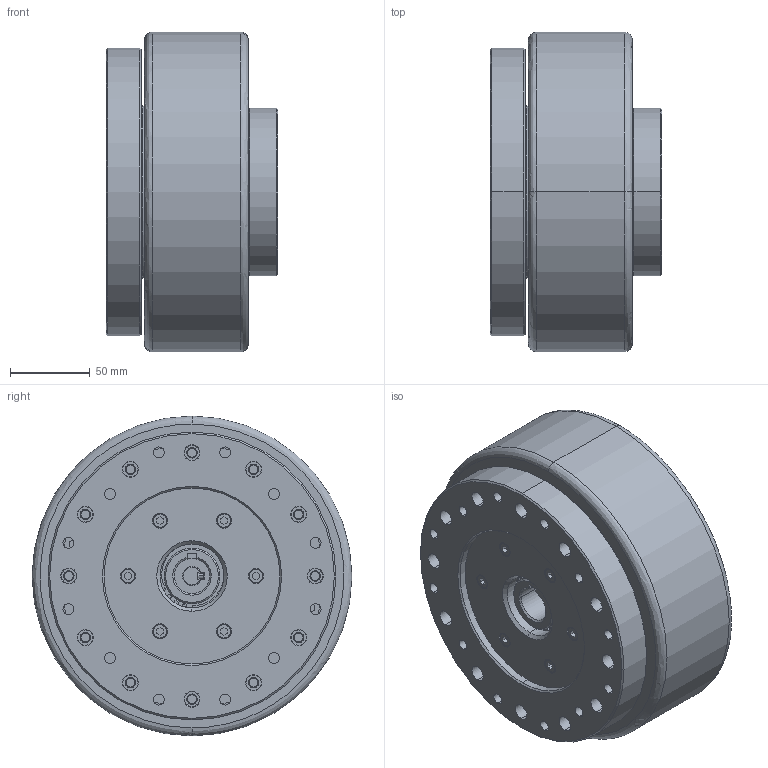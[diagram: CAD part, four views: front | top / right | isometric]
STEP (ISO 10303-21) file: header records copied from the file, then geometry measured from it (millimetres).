
FILE_DESCRIPTION (( 'STEP AP214' ), '1' );
FILE_NAME ('TYC 200.STEP', '2022-04-20T06:52:16', ( '' ), ( '' ), 'SwSTEP 2.0', 'SolidWorks 2018', '' );
FILE_SCHEMA (( 'AUTOMOTIVE_DESIGN' ));
Length unit declared in the file: millimetre
Products named in the file (1): TYC 200
Bounding box: 107.5 x 200 x 200 mm (x, y, z)
Volume: 2619047.6 mm3; surface area: 300667.7 mm2
Topology: 20 solids, 20 shells, 952 faces, 2446 edges, 1601 vertices
Faces by surface type: cylinder 338, plane 227, bspline 223, cone 164
Entity records: 41298 total; most frequent: CARTESIAN_POINT 18672, ORIENTED_EDGE 4840, DIRECTION 4415, EDGE_CURVE 2420, AXIS2_PLACEMENT_3D 1877, VERTEX_POINT 1601, EDGE_LOOP 1227, CIRCLE 1147
